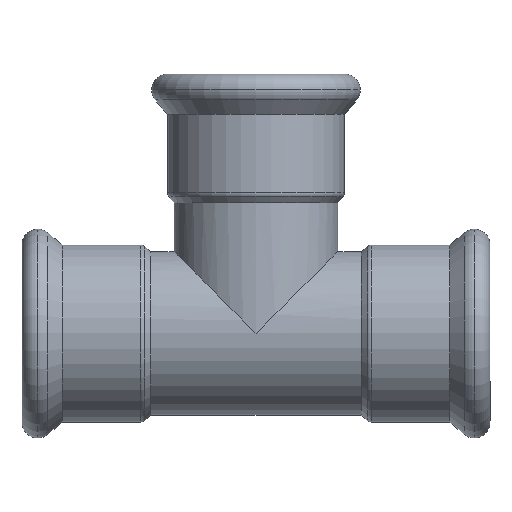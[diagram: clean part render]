
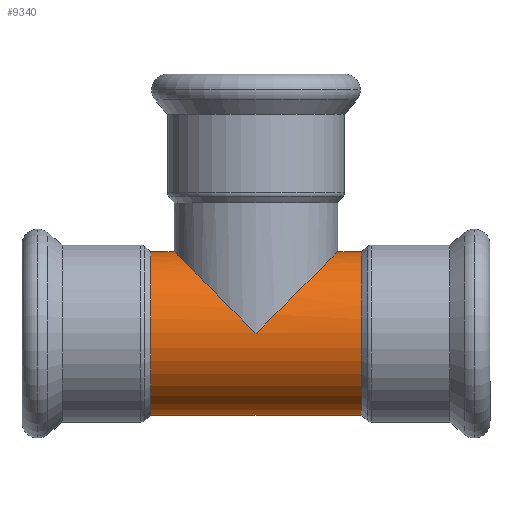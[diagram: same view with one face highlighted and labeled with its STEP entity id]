
A CAD part, top view. The second image highlights one B-rep face of the part: STEP entity #9340.
In plain terms, the highlighted cylindrical face has radius 21 mm (diameter 42 mm), a partial arc.
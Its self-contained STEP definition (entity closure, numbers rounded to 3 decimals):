
#540=CARTESIAN_POINT('',(-71.154,184.631,0.));
#550=VERTEX_POINT('',#540);
#730=CARTESIAN_POINT('',(-29.154,184.631,
0.));
#740=VERTEX_POINT('',#730);
#770=CARTESIAN_POINT('',(-50.154,163.631,0.));
#780=DIRECTION('',(-0.707,0.707,0.));
#790=DIRECTION('',(0.707,0.707,0.));
#800=AXIS2_PLACEMENT_3D('',#770,#780,#790);
#810=ELLIPSE('',#800,29.698,21.);
#820=CARTESIAN_POINT('',(-50.154,163.631,21.));
#830=VERTEX_POINT('',#820);
#840=EDGE_CURVE('',#830,#740,#810,.T.);
#860=CARTESIAN_POINT('',(-50.154,163.631,0.));
#870=DIRECTION('',(0.707,0.707,0.));
#880=DIRECTION('',(-0.707,0.707,0.));
#890=AXIS2_PLACEMENT_3D('',#860,#870,#880);
#900=ELLIPSE('',#890,29.698,21.);
#910=EDGE_CURVE('',#550,#830,#900,.T.);
#8890=CARTESIAN_POINT('',(-77.154,163.631,0.));
#8900=DIRECTION('',(-1.,0.,0.));
#8910=DIRECTION('',(0.,1.,0.));
#8920=AXIS2_PLACEMENT_3D('',#8890,#8900,#8910);
#8930=CYLINDRICAL_SURFACE('',#8920,21.);
#8940=CARTESIAN_POINT('',(-77.154,142.631,
0.));
#8950=DIRECTION('',(-1.,0.,0.));
#8960=VECTOR('',#8950,1.);
#8970=LINE('',#8940,#8960);
#8980=CARTESIAN_POINT('',(-23.154,142.631,
0.));
#8990=VERTEX_POINT('',#8980);
#9000=CARTESIAN_POINT('',(-77.154,142.631,
0.));
#9010=VERTEX_POINT('',#9000);
#9020=EDGE_CURVE('',#8990,#9010,#8970,.T.);
#9030=ORIENTED_EDGE('',*,*,#9020,.F.);
#9040=CARTESIAN_POINT('',(-77.154,163.631,0.));
#9050=DIRECTION('',(-1.,0.,0.));
#9060=DIRECTION('',(0.,1.,0.));
#9070=AXIS2_PLACEMENT_3D('',#9040,#9050,#9060);
#9080=CIRCLE('',#9070,21.);
#9090=CARTESIAN_POINT('',(-77.154,184.631,0.));
#9100=VERTEX_POINT('',#9090);
#9110=EDGE_CURVE('',#9010,#9100,#9080,.T.);
#9120=ORIENTED_EDGE('',*,*,#9110,.F.);
#9130=CARTESIAN_POINT('',(-77.154,184.631,0.));
#9140=DIRECTION('',(-1.,0.,0.));
#9150=VECTOR('',#9140,1.);
#9160=LINE('',#9130,#9150);
#9170=EDGE_CURVE('',#550,#9100,#9160,.T.);
#9180=ORIENTED_EDGE('',*,*,#9170,.T.);
#9190=ORIENTED_EDGE('',*,*,#910,.F.);
#9200=ORIENTED_EDGE('',*,*,#840,.F.);
#9210=CARTESIAN_POINT('',(-23.154,184.631,0.));
#9220=VERTEX_POINT('',#9210);
#9230=EDGE_CURVE('',#9220,#740,#9160,.T.);
#9240=ORIENTED_EDGE('',*,*,#9230,.T.);
#9250=CARTESIAN_POINT('',(-23.154,163.631,0.));
#9260=DIRECTION('',(-1.,0.,0.));
#9270=DIRECTION('',(0.,1.,0.));
#9280=AXIS2_PLACEMENT_3D('',#9250,#9260,#9270);
#9290=CIRCLE('',#9280,21.);
#9300=EDGE_CURVE('',#8990,#9220,#9290,.T.);
#9310=ORIENTED_EDGE('',*,*,#9300,.T.);
#9320=EDGE_LOOP('',(#9310,#9240,#9200,#9190,#9180,#9120,#9030));
#9330=FACE_OUTER_BOUND('',#9320,.T.);
#9340=ADVANCED_FACE('',(#9330),#8930,.T.);
